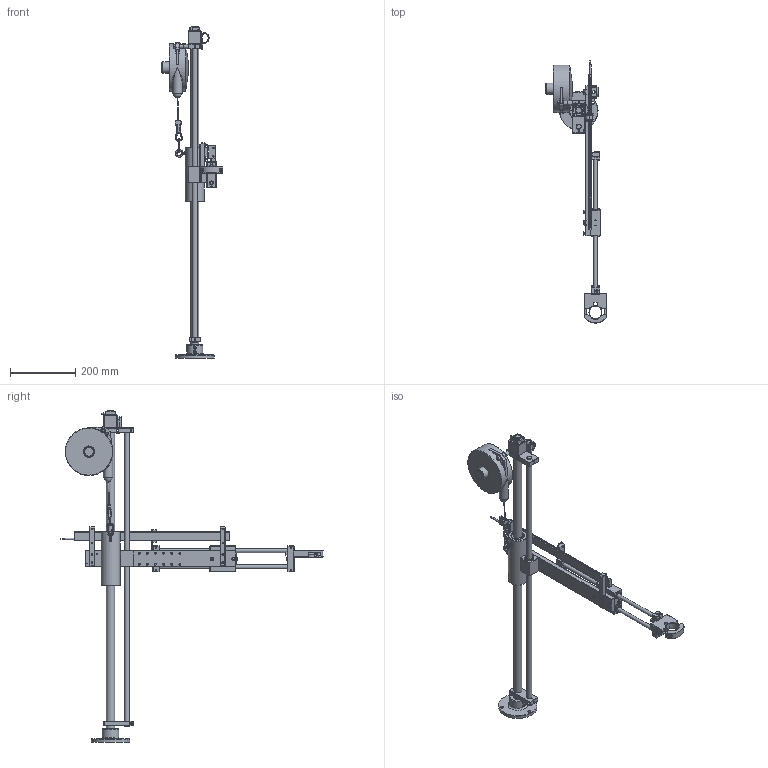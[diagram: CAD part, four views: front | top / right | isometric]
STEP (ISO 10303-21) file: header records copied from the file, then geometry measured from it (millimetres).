
FILE_DESCRIPTION( ( 'Unknown' ), '1' );
FILE_NAME( 'E:/0 Travail/0 Travaux en cours/Doga/Assemblage 2014/BIBLIOTEQUE 3D/Assemblage 2012/12-35-3772 DOGA/4-1201087_bras BA 40 PC/4-1201087_bras BA 40 PC.stp', 'Unknown', ( 'Unknown' ), ( 'Unknown' ), 'PSStep 14.0', 'Unknown', ' ' );
FILE_SCHEMA( ( 'AUTOMOTIVE_DESIGN { 1 0 10303 214 1 1 1 1 }' ) );
Length unit declared in the file: millimetre
Products named in the file (69): Sous Ens pince BA40PC; Vis CHC M6x45 fileté sous tete; Placement pince BA40; Collier BA40; Pince spécial BA40; Sous Ens Coulisse BA40PC; Vis CHC M5x20; Vis CHC M6x25; Vis HC M3x8; axe Ø12 BA40; axe Ø12 BA40-oa0; Butoir; Aimant NE110; Bride avant BA40; Aimant PCMAG5; Bride arrière BA40PC; Support aimant BA40PC; Sous Ens mat BA40PC; Pied BA40R; Vis HC M8x12 à bout plat; Axe mat BA40; Rondelle AS1730; Butée à aiguilles AXK1730; Roulement à aiguilles HK1616; Anneau élastique pour arbre 16; Aimant; Sous Ens arrière BRAS BA40PC; Vis CHC M6x25-oa1; Vis CHC M6x25-oa2; Boîte à douille BA40; Douille KB25 G; Douille KB25 G-oa3; Fourreau BA40; Plaque support BA40PC; Piton M6; Capteur PCFP25-0300-KAB; Vis FHC M6x25; Bride PCFP25 BFS1; Boitier de dérivation; Support bride BA40PC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
Assembly tree (86 placements, depth 3):
  Assem1
    Cable equilibreur-oa13
    Collier larg 20
    Collier larg 20
    Sous Ens Equilibreur BA40PC
      Capteur de position angulaire QUADRO-R
      Platine fixation N°2 BA40
      Axe Ø16 BA40
      fourreau supérieur BA40
      Entretoise  x2
      Vis CHC M8x50
      Equilibreur 4-6 Kg
      Platine fixation fourreau BA40
    Sous Ens pince BA40PC
      Vis CHC M6x45 fileté sous tete  x2
      Placement pince BA40
      Collier BA40
      Pince spécial BA40
    Sous Ens Coulisse BA40PC
      Vis CHC M5x20  x4
      Vis CHC M6x25  x2
      Vis HC M3x8
      axe Ø12 BA40
      axe Ø12 BA40-oa0
      Butoir
      Aimant NE110
      Bride avant BA40
      Aimant PCMAG5
      Bride arrière BA40PC
      Support aimant BA40PC
    Sous Ens mat BA40PC
      Pied BA40R
      Vis HC M8x12 à bout plat  x2
      Axe mat BA40
      Rondelle AS1730  x2
      Butée à aiguilles AXK1730
      Roulement à aiguilles HK1616  x2
      Anneau élastique pour arbre 16
      Aimant
    Sous Ens arrière BRAS BA40PC
      Vis CHC M6x25-oa1
      Vis CHC M6x25-oa2
      Boîte à douille BA40
      Douille KB25 G
      Douille KB25 G-oa3
      Fourreau BA40
      Plaque support BA40PC
      Piton M6
      Capteur PCFP25-0300-KAB
      Vis FHC M6x25  x8
      Bride PCFP25 BFS1  x2
      Boitier de dérivation
      Support bride BA40PC  x2
      Rondelle 05 Z
      Vis CHC M5x10
      Douille KB12 G
      Douille KB12 G-oa4
      Douille KB12 G-oa5
      Douille KB12 G-oa6
      Anneau élastique pour moyeu 22
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Bounding box: 189 x 802.43 x 1016 mm (x, y, z)
Volume: 3243864.5 mm3; surface area: 680913.2 mm2
Topology: 81 solids, 81 shells, 2051 faces, 4899 edges, 3141 vertices
Faces by surface type: plane 1173, cylinder 614, cone 156, extrusion 48, torus 44, sphere 9, bspline 7
Full cylindrical faces by diameter (mm): 1 x3, 1.6 x3, 1.7 x2, 2 x9, 2.459 x6, 2.5 x5, 3 x1, 3.2 x2, 3.242 x6, 3.5 x1, 4 x9, 4.134 x10, 4.2 x9, 4.3 x4, 4.8 x4, 4.917 x6, 4.918 x1, 4.99 x1, 5 x28, 5.5 x10, 5.8 x12, 5.99 x2, 6 x41, 6.5 x3, 6.647 x2, 6.8 x2, 7 x6, 7.8 x1, 8 x5, 8.5 x10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
Entity records: 64656 total; most frequent: CARTESIAN_POINT 11634, DIRECTION 7767, ORIENTED_EDGE 6836, EDGE_CURVE 3418, AXIS2_PLACEMENT_3D 2888, EDGE_LOOP 2433, VERTEX_POINT 2392, PRESENTATION_STYLE_ASSIGNMENT 2137
